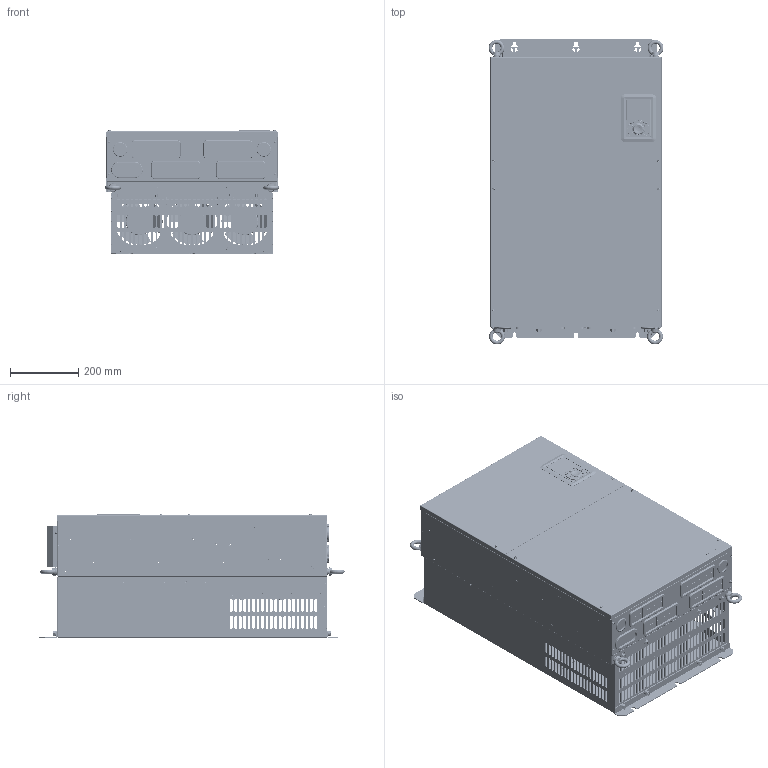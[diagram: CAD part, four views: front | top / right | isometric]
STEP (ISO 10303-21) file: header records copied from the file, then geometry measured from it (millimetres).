
FILE_DESCRIPTION((''),'2;1');
FILE_NAME('GD350A-200G-4_3D_ASM','2024-01-25T14:27:19',('Administrator'),(''),'CREO PARAMETRIC BY PTC INC, 2019080','CREO PARAMETRIC BY PTC INC, 2019080','');
FILE_SCHEMA(('CONFIG_CONTROL_DESIGN'));
Products named in the file (174): 80384713_1_1_1; S-M8-ZC_2_1_1; S-M4-ZC_1_1_1; 80384713_ASM_1_ASM_1_ASM_1_ASM; 80385060_1_1_1; BSO-M4-12-ZC_1_1_1; 80385060_ASM_1_ASM_1_ASM_1_ASM; 80381428_1_1_1; 80381428_ASM_2_ASM_1_ASM_1_ASM; 80385061_1_1_1; NZ-M10-ZC_1_1_1; 80385061_ASM_1_ASM_1_ASM_1_ASM; 80385058_1_1_1; 80385058_ASM_1_ASM_1_ASM_1_ASM; 80380144_1_1_1; S-M5-ZC_1_1_1; 80380144_ASM_1_ASM_1_ASM_1_ASM; 80380145_1_1_1; 80380145_ASM_1_ASM_1_ASM_1_ASM; 80380150_2_1_1; 80380150_ASM_1_ASM_1_ASM_1_ASM; 80380147_2_1_1; 80385059_1_1_1; 80385059_ASM_1_ASM_1_ASM_1_ASM; 80381356_2_1_1; SO-M4-8-ZC_1_1_1; BSO-M4-16-ZC_1_1_1; 80381356_ASM_2_ASM_1_ASM_1_ASM; 80380146_2_1_1; 80380146_ASM_2_ASM_1_ASM_1_ASM; 80380148_2_1_1; 80380148_ASM_1_ASM_1_ASM_1_ASM; 80380159_2_1_1; 80380164_1_1_1; 80380164_ASM_1_ASM_1_ASM_1_ASM; 80380156_2_1_1; 80380156_ASM_2_ASM_1_ASM_1_ASM; GB12617_4_4X10_SL_1_1_1; GB12617_4_4X12_SL_2_1_1; 61061121_ASM_2_ASM_1_ASM_1_ASM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
Assembly tree (603 placements, depth 9):
  GD350A-200G-4_3D_ASM
    GD350-132G-4_3D_ASM_1_ASM
      GD350-200G-4_3D__ASM_1_ASM_1_ASM
        GD350-200G-4_ASM_2_ASM_1_ASM_1_ASM
          40800960_ASM_2_ASM_1_ASM_1_ASM
            61061121_ASM_2_ASM_1_ASM_1_ASM
              80384713_ASM_1_ASM_1_ASM_1_ASM
                80384713_1_1_1
                S-M8-ZC_2_1_1  x8
                S-M4-ZC_1_1_1  x12
              80385060_ASM_1_ASM_1_ASM_1_ASM
                80385060_1_1_1
                S-M4-ZC_1_1_1  x10
                BSO-M4-12-ZC_1_1_1  x2
                S-M8-ZC_2_1_1  x2
              80381428_ASM_2_ASM_1_ASM_1_ASM
                80381428_1_1_1
              80385061_ASM_1_ASM_1_ASM_1_ASM  x2
                80385061_1_1_1
                NZ-M10-ZC_1_1_1
                S-M8-ZC_2_1_1
              80385058_ASM_1_ASM_1_ASM_1_ASM
                80385058_1_1_1
                S-M4-ZC_1_1_1  x3
              80380144_ASM_1_ASM_1_ASM_1_ASM
                80380144_1_1_1
                S-M5-ZC_1_1_1  x3
              80380145_ASM_1_ASM_1_ASM_1_ASM
                80380145_1_1_1
                S-M5-ZC_1_1_1  x4
              80380150_ASM_1_ASM_1_ASM_1_ASM  x2
                80380150_2_1_1
                S-M4-ZC_1_1_1
              80380147_2_1_1  x2
              80385059_ASM_1_ASM_1_ASM_1_ASM
                80385059_1_1_1
                S-M8-ZC_2_1_1  x4
                NZ-M10-ZC_1_1_1  x2
              80381356_ASM_2_ASM_1_ASM_1_ASM
                80381356_2_1_1
                S-M4-ZC_1_1_1  x40
                SO-M4-8-ZC_1_1_1  x2
                BSO-M4-16-ZC_1_1_1  x2
              80380146_ASM_2_ASM_1_ASM_1_ASM  x4
                80380146_2_1_1
                S-M8-ZC_2_1_1
              80380148_ASM_1_ASM_1_ASM_1_ASM  x2
                80380148_2_1_1
                S-M4-ZC_1_1_1
              80380159_2_1_1  x2
              80380164_ASM_1_ASM_1_ASM_1_ASM  x2
                80380164_1_1_1
                S-M4-ZC_1_1_1
              80380156_ASM_2_ASM_1_ASM_1_ASM
                80380156_2_1_1
                S-M5-ZC_1_1_1  x6
              GB12617_4_4X10_SL_1_1_1  x108
              GB12617_4_4X12_SL_2_1_1  x12
            80381357_ASM_2_ASM_1_ASM_1_ASM
              80381357_2_1_1
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Bounding box: 511.2 x 892.05 x 363.8 mm (x, y, z)
Volume: 8603550.9 mm3; surface area: 7596844.2 mm2
Topology: 562 solids, 604 shells, 35887 faces, 94742 edges, 61477 vertices
Faces by surface type: plane 21736, cylinder 9831, cone 3068, torus 769, bspline 196, sphere 174, extrusion 113
Entity records: 527600 total; most frequent: CARTESIAN_POINT 107064, DIRECTION 89396, ORIENTED_EDGE 84623, EDGE_CURVE 42389, AXIS2_PLACEMENT_3D 31723, VERTEX_POINT 27577, VECTOR 25950, LINE 25837
